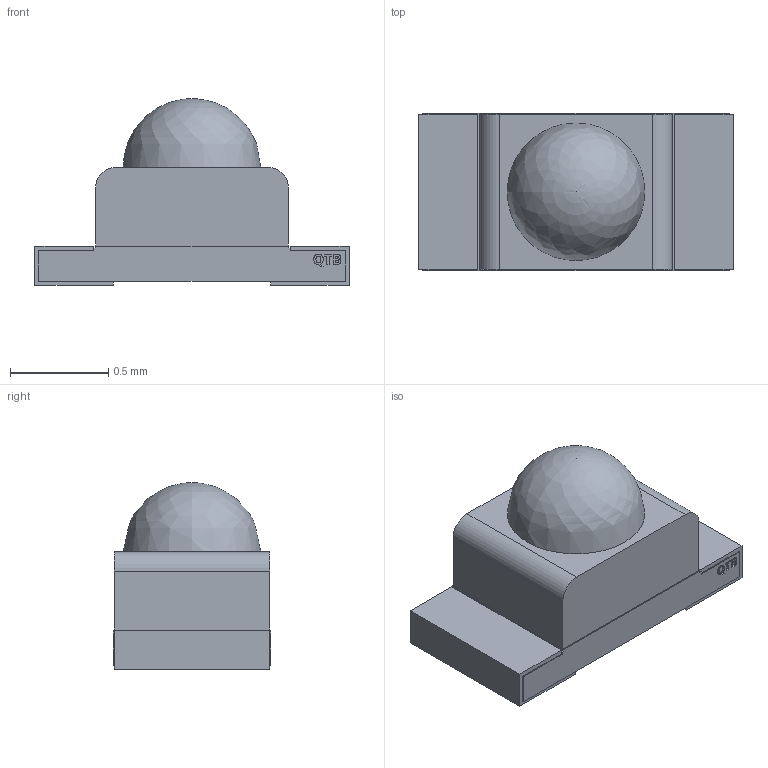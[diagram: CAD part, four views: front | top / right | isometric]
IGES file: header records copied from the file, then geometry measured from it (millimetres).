
Start section: Data from Parasolid IGES Translator 23.1.110, Copyright(c) 2006 Siemens PLM Software. All Rights Reserved.
Global section: file name: 5fab0af1258d1f0f4c7a93d0.iges; native system: By Siemens PLM Incorporated; preprocessor: XPlus GENERIC/IGES 23.1.110; author: Noname; organization: Noname; date: 20201110.214938; units: metre
Bounding box: 1.6 x 0.8 x 0.95 mm (x, y, z)
Surface area: 9.5 mm2 (no closed solid volume)
Topology: 0 solids, 0 shells, 98 faces, 507 edges, 506 vertices
Faces by surface type: extrusion 95, revolution 3
